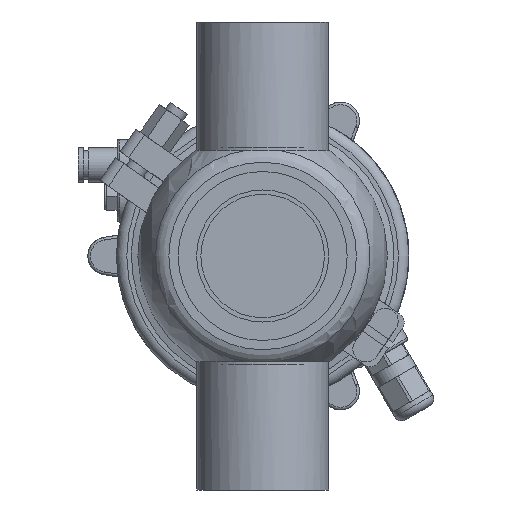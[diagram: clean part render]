
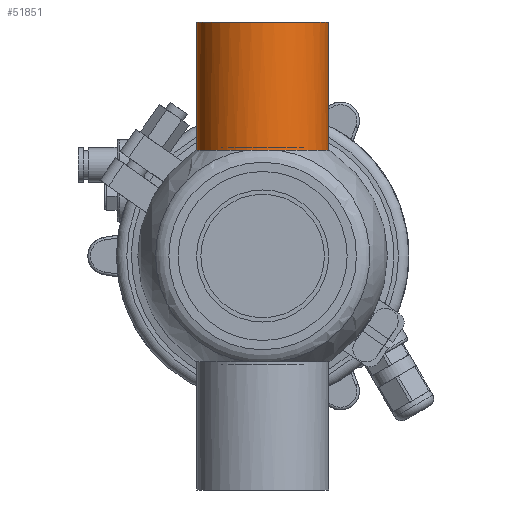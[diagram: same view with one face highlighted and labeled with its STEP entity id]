
A CAD part, front view. The second image highlights one B-rep face of the part: STEP entity #51851.
In plain terms, the highlighted cylindrical face has radius 25.4 mm (diameter 50.8 mm), a full revolution.
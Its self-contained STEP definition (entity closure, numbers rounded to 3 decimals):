
#1205 = DIRECTION ( 'NONE',  ( 0., 0., 1. ) ) ;
#1646 = ORIENTED_EDGE ( 'NONE', *, *, #42344, .T. ) ;
#4268 = VERTEX_POINT ( 'NONE', #25017 ) ;
#5909 = CIRCLE ( 'NONE', #59102, 25.4 ) ;
#7596 = CARTESIAN_POINT ( 'NONE',  ( 40.672, -25.385, -1.022 ) ) ;
#10466 = CARTESIAN_POINT ( 'NONE',  ( 0., 0., 0. ) ) ;
#10809 = DIRECTION ( 'NONE',  ( 1., 0., 0. ) ) ;
#12498 = CARTESIAN_POINT ( 'NONE',  ( 40.729, -24.902, 5.113 ) ) ;
#12822 = CARTESIAN_POINT ( 'NONE',  ( 40.689, -25.275, -2.566 ) ) ;
#12926 = CARTESIAN_POINT ( 'NONE',  ( 40.729, -24.652, -6.117 ) ) ;
#14554 = EDGE_LOOP ( 'NONE', ( #1646, #26001 ) ) ;
#14787 = CARTESIAN_POINT ( 'NONE',  ( 40.729, 0., 0. ) ) ;
#15068 = FACE_OUTER_BOUND ( 'NONE', #14554, .T. ) ;
#15094 = DIRECTION ( 'NONE',  ( 0., 0., 1. ) ) ;
#17152 = CARTESIAN_POINT ( 'NONE',  ( 40.681, -25.337, 2.066 ) ) ;
#19251 = AXIS2_PLACEMENT_3D ( 'NONE', #14787, #10809, #15094 ) ;
#19582 = EDGE_LOOP ( 'NONE', ( #34117 ) ) ;
#21176 = CARTESIAN_POINT ( 'NONE',  ( 40.669, -25.4, -0.503 ) ) ;
#21484 = CARTESIAN_POINT ( 'NONE',  ( 40.729, -24.652, 6.117 ) ) ;
#24185 = CIRCLE ( 'NONE', #19251, 25.4 ) ;
#25017 = CARTESIAN_POINT ( 'NONE',  ( 40.729, -24.652, 6.117 ) ) ;
#25539 = B_SPLINE_CURVE_WITH_KNOTS ( 'NONE', 3,
 ( #21484, #12498, #35964, #17152, #54500, #21176, #7596, #59747, #12822, #44918, #27024, #31344 ),
 .UNSPECIFIED., .F., .F.,
 ( 4, 2, 2, 2, 2, 4 ),
 ( 0., 0.003, 0.006, 0.008, 0.009, 0.012 ),
 .UNSPECIFIED. ) ;
#26001 = ORIENTED_EDGE ( 'NONE', *, *, #59135, .T. ) ;
#27024 = CARTESIAN_POINT ( 'NONE',  ( 40.729, -24.902, -5.113 ) ) ;
#30170 = EDGE_CURVE ( 'NONE', #56013, #56013, #5909, .T. ) ;
#31344 = CARTESIAN_POINT ( 'NONE',  ( 40.729, -24.652, -6.117 ) ) ;
#33871 = FACE_OUTER_BOUND ( 'NONE', #19582, .T. ) ;
#34117 = ORIENTED_EDGE ( 'NONE', *, *, #30170, .T. ) ;
#35964 = CARTESIAN_POINT ( 'NONE',  ( 40.711, -25.088, 4.101 ) ) ;
#42344 = EDGE_CURVE ( 'NONE', #48311, #4268, #24185, .T. ) ;
#44918 = CARTESIAN_POINT ( 'NONE',  ( 40.711, -25.088, -4.099 ) ) ;
#45037 = DIRECTION ( 'NONE',  ( -1., 0., 0. ) ) ;
#48311 = VERTEX_POINT ( 'NONE', #12926 ) ;
#48705 = DIRECTION ( 'NONE',  ( -1., 0., 0. ) ) ;
#51424 = CARTESIAN_POINT ( 'NONE',  ( 90., 0., 25.4 ) ) ;
#51545 = AXIS2_PLACEMENT_3D ( 'NONE', #10466, #48705, #1205 ) ;
#51851 = ADVANCED_FACE ( 'NONE', ( #15068, #33871 ), #52752, .T. ) ;
#51942 = CARTESIAN_POINT ( 'NONE',  ( 90., 0., 0. ) ) ;
#52752 = CYLINDRICAL_SURFACE ( 'NONE', #51545, 25.4 ) ;
#53721 = DIRECTION ( 'NONE',  ( 0., 0., 1. ) ) ;
#54500 = CARTESIAN_POINT ( 'NONE',  ( 40.67, -25.4, 1.042 ) ) ;
#56013 = VERTEX_POINT ( 'NONE', #51424 ) ;
#59102 = AXIS2_PLACEMENT_3D ( 'NONE', #51942, #45037, #53721 ) ;
#59135 = EDGE_CURVE ( 'NONE', #4268, #48311, #25539, .T. ) ;
#59747 = CARTESIAN_POINT ( 'NONE',  ( 40.682, -25.322, -2.053 ) ) ;
